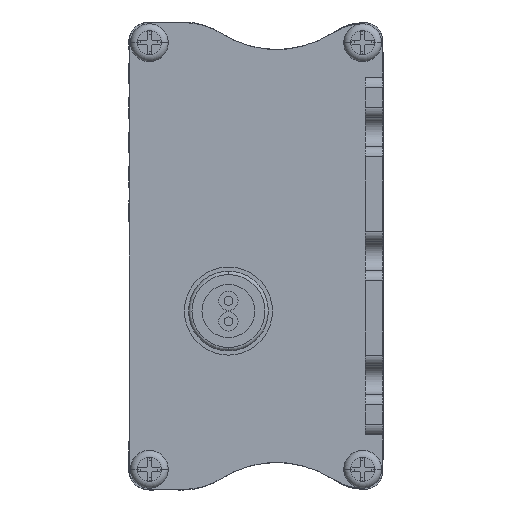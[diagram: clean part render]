
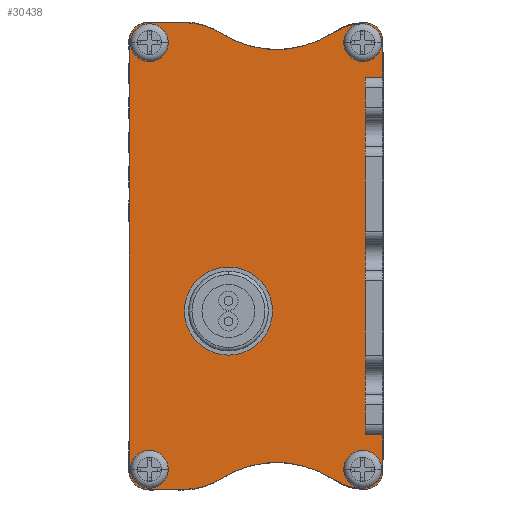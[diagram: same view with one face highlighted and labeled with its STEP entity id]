
A CAD part, left-side view. The second image highlights one B-rep face of the part: STEP entity #30438.
In plain terms, the highlighted planar face has unit normal (-1, 0, 0) as drawn and (1, 0, 0) by its records, which use the part's own axes.
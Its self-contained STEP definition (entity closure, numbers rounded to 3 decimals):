
#29561=CARTESIAN_POINT('',(2.5,22.4,8.));
#29562=DIRECTION('',(-1.,0.,0.));
#29563=DIRECTION('',(0.,1.,0.));
#29564=AXIS2_PLACEMENT_3D('',#29561,#29562,#29563);
#29566=CARTESIAN_POINT('',(2.5,22.4,8.));
#29567=DIRECTION('',(-1.,0.,0.));
#29568=DIRECTION('',(0.,-1.,0.));
#29569=AXIS2_PLACEMENT_3D('',#29566,#29567,#29568);
#29571=CARTESIAN_POINT('',(2.5,28.809,-23.9));
#29572=DIRECTION('',(1.,0.,0.));
#29573=DIRECTION('',(0.,-0.536,-0.844));
#29574=AXIS2_PLACEMENT_3D('',#29571,#29572,#29573);
#29576=CARTESIAN_POINT('',(2.5,15.4,-45.));
#29577=DIRECTION('',(1.,0.,0.));
#29578=DIRECTION('',(0.,0.536,0.844));
#29579=AXIS2_PLACEMENT_3D('',#29576,#29577,#29578);
#29581=CARTESIAN_POINT('',(2.5,1.959,-23.921));
#29582=DIRECTION('',(1.,0.,0.));
#29583=DIRECTION('',(0.,0.064,-0.998));
#29584=AXIS2_PLACEMENT_3D('',#29581,#29582,#29583);
#29586=CARTESIAN_POINT('',(2.5,2.6,-31.3));
#29587=DIRECTION('',(1.,0.,0.));
#29588=DIRECTION('',(0.,-1.,0.));
#29589=AXIS2_PLACEMENT_3D('',#29586,#29587,#29588);
#29591=DIRECTION('',(0.,0.,-1.));
#29592=VECTOR('',#29591,5.3);
#29593=CARTESIAN_POINT('',(2.5,0.,-26.));
#29594=LINE('',#29593,#29592);
#29595=DIRECTION('',(0.,1.,0.));
#29596=VECTOR('',#29595,2.5);
#29597=CARTESIAN_POINT('',(2.5,0.,26.));
#29598=LINE('',#29597,#29596);
#29599=DIRECTION('',(0.,0.,-1.));
#29600=VECTOR('',#29599,5.3);
#29601=CARTESIAN_POINT('',(2.5,0.,31.3));
#29602=LINE('',#29601,#29600);
#29603=CARTESIAN_POINT('',(2.5,2.6,31.3));
#29604=DIRECTION('',(1.,0.,0.));
#29605=DIRECTION('',(0.,0.,1.));
#29606=AXIS2_PLACEMENT_3D('',#29603,#29604,#29605);
#29608=CARTESIAN_POINT('',(2.5,1.959,23.921));
#29609=DIRECTION('',(1.,0.,0.));
#29610=DIRECTION('',(0.,0.538,0.843));
#29611=AXIS2_PLACEMENT_3D('',#29608,#29609,#29610);
#29613=CARTESIAN_POINT('',(2.5,15.4,45.));
#29614=DIRECTION('',(1.,0.,0.));
#29615=DIRECTION('',(0.,-0.538,-0.843));
#29616=AXIS2_PLACEMENT_3D('',#29613,#29614,#29615);
#29618=CARTESIAN_POINT('',(2.5,28.809,23.9));
#29619=DIRECTION('',(1.,0.,0.));
#29620=DIRECTION('',(0.,0.,1.));
#29621=AXIS2_PLACEMENT_3D('',#29618,#29619,#29620);
#29623=DIRECTION('',(0.,-1.,0.));
#29624=VECTOR('',#29623,5.391);
#29625=CARTESIAN_POINT('',(2.5,34.2,33.9));
#29626=LINE('',#29625,#29624);
#29627=CARTESIAN_POINT('',(2.5,34.2,31.3));
#29628=DIRECTION('',(1.,0.,0.));
#29629=DIRECTION('',(0.,1.,0.));
#29630=AXIS2_PLACEMENT_3D('',#29627,#29628,#29629);
#29632=DIRECTION('',(0.,0.,1.));
#29633=VECTOR('',#29632,62.6);
#29634=CARTESIAN_POINT('',(2.5,36.8,-31.3));
#29635=LINE('',#29634,#29633);
#29636=CARTESIAN_POINT('',(2.5,34.2,-31.3));
#29637=DIRECTION('',(1.,0.,0.));
#29638=DIRECTION('',(0.,0.,-1.));
#29639=AXIS2_PLACEMENT_3D('',#29636,#29637,#29638);
#29641=CARTESIAN_POINT('',(2.5,2.9,31.));
#29642=DIRECTION('',(-1.,0.,0.));
#29643=DIRECTION('',(0.,0.,-1.));
#29644=AXIS2_PLACEMENT_3D('',#29641,#29642,#29643);
#29646=CARTESIAN_POINT('',(2.5,2.9,31.));
#29647=DIRECTION('',(-1.,0.,0.));
#29648=DIRECTION('',(0.,0.,1.));
#29649=AXIS2_PLACEMENT_3D('',#29646,#29647,#29648);
#29651=CARTESIAN_POINT('',(2.5,33.9,31.));
#29652=DIRECTION('',(-1.,0.,0.));
#29653=DIRECTION('',(0.,0.,-1.));
#29654=AXIS2_PLACEMENT_3D('',#29651,#29652,#29653);
#29656=CARTESIAN_POINT('',(2.5,33.9,31.));
#29657=DIRECTION('',(-1.,0.,0.));
#29658=DIRECTION('',(0.,0.,1.));
#29659=AXIS2_PLACEMENT_3D('',#29656,#29657,#29658);
#29661=CARTESIAN_POINT('',(2.5,33.9,-31.));
#29662=DIRECTION('',(-1.,0.,0.));
#29663=DIRECTION('',(0.,0.,-1.));
#29664=AXIS2_PLACEMENT_3D('',#29661,#29662,#29663);
#29666=CARTESIAN_POINT('',(2.5,33.9,-31.));
#29667=DIRECTION('',(-1.,0.,0.));
#29668=DIRECTION('',(0.,0.,1.));
#29669=AXIS2_PLACEMENT_3D('',#29666,#29667,#29668);
#29671=CARTESIAN_POINT('',(2.5,2.9,-31.));
#29672=DIRECTION('',(-1.,0.,0.));
#29673=DIRECTION('',(0.,0.,-1.));
#29674=AXIS2_PLACEMENT_3D('',#29671,#29672,#29673);
#29676=CARTESIAN_POINT('',(2.5,2.9,-31.));
#29677=DIRECTION('',(-1.,0.,0.));
#29678=DIRECTION('',(0.,0.,1.));
#29679=AXIS2_PLACEMENT_3D('',#29676,#29677,#29678);
#29809=DIRECTION('',(0.,0.,1.));
#29810=VECTOR('',#29809,52.);
#29811=CARTESIAN_POINT('',(2.5,2.5,-26.));
#29812=LINE('',#29811,#29810);
#29919=DIRECTION('',(0.,1.,0.));
#29920=VECTOR('',#29919,2.5);
#29921=CARTESIAN_POINT('',(2.5,0.,-26.));
#29922=LINE('',#29921,#29920);
#30019=DIRECTION('',(0.,-1.,0.));
#30020=VECTOR('',#30019,5.391);
#30021=CARTESIAN_POINT('',(2.5,34.2,-33.9));
#30022=LINE('',#30021,#30020);
#30080=CARTESIAN_POINT('',(2.5,36.8,-31.3));
#30082=VERTEX_POINT('',#30080);
#30083=CARTESIAN_POINT('',(2.5,28.809,33.9));
#30085=VERTEX_POINT('',#30083);
#30088=CARTESIAN_POINT('',(2.5,34.2,33.9));
#30090=VERTEX_POINT('',#30088);
#30091=CARTESIAN_POINT('',(2.5,36.8,31.3));
#30093=VERTEX_POINT('',#30091);
#30096=CARTESIAN_POINT('',(2.5,2.6,-33.9));
#30098=VERTEX_POINT('',#30096);
#30100=CARTESIAN_POINT('',(2.5,23.445,32.34));
#30102=VERTEX_POINT('',#30100);
#30103=CARTESIAN_POINT('',(2.5,2.6,33.9));
#30105=VERTEX_POINT('',#30103);
#30107=CARTESIAN_POINT('',(2.5,7.335,32.352));
#30109=VERTEX_POINT('',#30107);
#30111=CARTESIAN_POINT('',(2.5,7.335,-32.352));
#30113=VERTEX_POINT('',#30111);
#30116=CARTESIAN_POINT('',(2.5,23.445,-32.34));
#30118=VERTEX_POINT('',#30116);
#30131=CARTESIAN_POINT('',(2.5,2.9,-32.6));
#30132=VERTEX_POINT('',#30131);
#30133=CARTESIAN_POINT('',(2.5,2.9,-29.4));
#30134=VERTEX_POINT('',#30133);
#30139=CARTESIAN_POINT('',(2.5,2.9,29.4));
#30140=VERTEX_POINT('',#30139);
#30141=CARTESIAN_POINT('',(2.5,2.9,32.6));
#30142=VERTEX_POINT('',#30141);
#30143=CARTESIAN_POINT('',(2.5,33.9,-32.6));
#30144=VERTEX_POINT('',#30143);
#30145=CARTESIAN_POINT('',(2.5,33.9,-29.4));
#30146=VERTEX_POINT('',#30145);
#30147=CARTESIAN_POINT('',(2.5,33.9,29.4));
#30148=VERTEX_POINT('',#30147);
#30149=CARTESIAN_POINT('',(2.5,33.9,32.6));
#30150=VERTEX_POINT('',#30149);
#30151=CARTESIAN_POINT('',(2.5,28.809,-33.9));
#30152=VERTEX_POINT('',#30151);
#30153=CARTESIAN_POINT('',(2.5,34.2,-33.9));
#30154=VERTEX_POINT('',#30153);
#30155=CARTESIAN_POINT('',(2.5,0.,31.3));
#30156=VERTEX_POINT('',#30155);
#30157=CARTESIAN_POINT('',(2.5,0.,26.));
#30158=VERTEX_POINT('',#30157);
#30159=CARTESIAN_POINT('',(2.5,2.5,26.));
#30160=VERTEX_POINT('',#30159);
#30161=CARTESIAN_POINT('',(2.5,2.5,-26.));
#30162=VERTEX_POINT('',#30161);
#30163=CARTESIAN_POINT('',(2.5,0.,-26.));
#30164=VERTEX_POINT('',#30163);
#30165=CARTESIAN_POINT('',(2.5,0.,-31.3));
#30166=VERTEX_POINT('',#30165);
#30175=CARTESIAN_POINT('',(2.5,28.8,8.));
#30176=CARTESIAN_POINT('',(2.5,16.,8.));
#30177=VERTEX_POINT('',#30175);
#30178=VERTEX_POINT('',#30176);
#30367=CARTESIAN_POINT('',(2.5,36.8,33.9));
#30368=DIRECTION('',(-1.,0.,0.));
#30369=DIRECTION('',(0.,-1.,0.));
#30370=AXIS2_PLACEMENT_3D('',#30367,#30368,#30369);
#30371=PLANE('',#30370);
#30373=ORIENTED_EDGE('',*,*,#30372,.F.);
#30375=ORIENTED_EDGE('',*,*,#30374,.T.);
#30377=ORIENTED_EDGE('',*,*,#30376,.F.);
#30379=ORIENTED_EDGE('',*,*,#30378,.F.);
#30381=ORIENTED_EDGE('',*,*,#30380,.F.);
#30383=ORIENTED_EDGE('',*,*,#30382,.T.);
#30385=ORIENTED_EDGE('',*,*,#30384,.T.);
#30387=ORIENTED_EDGE('',*,*,#30386,.F.);
#30389=ORIENTED_EDGE('',*,*,#30388,.F.);
#30391=ORIENTED_EDGE('',*,*,#30390,.F.);
#30393=ORIENTED_EDGE('',*,*,#30392,.F.);
#30395=ORIENTED_EDGE('',*,*,#30394,.T.);
#30396=ORIENTED_EDGE('',*,*,#30280,.F.);
#30398=ORIENTED_EDGE('',*,*,#30397,.F.);
#30400=ORIENTED_EDGE('',*,*,#30399,.F.);
#30402=ORIENTED_EDGE('',*,*,#30401,.F.);
#30404=ORIENTED_EDGE('',*,*,#30403,.F.);
#30406=ORIENTED_EDGE('',*,*,#30405,.T.);
#30407=EDGE_LOOP('',(#30373,#30375,#30377,#30379,#30381,#30383,#30385,#30387,
#30389,#30391,#30393,#30395,#30396,#30398,#30400,#30402,#30404,#30406));
#30408=FACE_OUTER_BOUND('',#30407,.F.);
#30409=ORIENTED_EDGE('',*,*,#30357,.F.);
#30411=ORIENTED_EDGE('',*,*,#30410,.F.);
#30412=EDGE_LOOP('',(#30409,#30411));
#30413=FACE_BOUND('',#30412,.F.);
#30415=ORIENTED_EDGE('',*,*,#30414,.F.);
#30417=ORIENTED_EDGE('',*,*,#30416,.F.);
#30418=EDGE_LOOP('',(#30415,#30417));
#30419=FACE_BOUND('',#30418,.F.);
#30421=ORIENTED_EDGE('',*,*,#30420,.F.);
#30423=ORIENTED_EDGE('',*,*,#30422,.F.);
#30424=EDGE_LOOP('',(#30421,#30423));
#30425=FACE_BOUND('',#30424,.F.);
#30427=ORIENTED_EDGE('',*,*,#30426,.F.);
#30429=ORIENTED_EDGE('',*,*,#30428,.F.);
#30430=EDGE_LOOP('',(#30427,#30429));
#30431=FACE_BOUND('',#30430,.F.);
#30433=ORIENTED_EDGE('',*,*,#30432,.F.);
#30435=ORIENTED_EDGE('',*,*,#30434,.F.);
#30436=EDGE_LOOP('',(#30433,#30435));
#30437=FACE_BOUND('',#30436,.F.);
#29565=CIRCLE('',#29564,6.4);
#29570=CIRCLE('',#29569,6.4);
#29575=CIRCLE('',#29574,10.);
#29580=CIRCLE('',#29579,15.);
#29585=CIRCLE('',#29584,10.);
#29590=CIRCLE('',#29589,2.6);
#29607=CIRCLE('',#29606,2.6);
#29612=CIRCLE('',#29611,10.);
#29617=CIRCLE('',#29616,15.);
#29622=CIRCLE('',#29621,10.);
#29631=CIRCLE('',#29630,2.6);
#29640=CIRCLE('',#29639,2.6);
#29645=CIRCLE('',#29644,1.6);
#29650=CIRCLE('',#29649,1.6);
#29655=CIRCLE('',#29654,1.6);
#29660=CIRCLE('',#29659,1.6);
#29665=CIRCLE('',#29664,1.6);
#29670=CIRCLE('',#29669,1.6);
#29675=CIRCLE('',#29674,1.6);
#29680=CIRCLE('',#29679,1.6);
#30280=EDGE_CURVE('',#30085,#30102,#29622,.T.);
#30357=EDGE_CURVE('',#30177,#30178,#29565,.T.);
#30372=EDGE_CURVE('',#30118,#30152,#29575,.T.);
#30374=EDGE_CURVE('',#30118,#30113,#29580,.T.);
#30376=EDGE_CURVE('',#30098,#30113,#29585,.T.);
#30378=EDGE_CURVE('',#30166,#30098,#29590,.T.);
#30380=EDGE_CURVE('',#30164,#30166,#29594,.T.);
#30382=EDGE_CURVE('',#30164,#30162,#29922,.T.);
#30384=EDGE_CURVE('',#30162,#30160,#29812,.T.);
#30386=EDGE_CURVE('',#30158,#30160,#29598,.T.);
#30388=EDGE_CURVE('',#30156,#30158,#29602,.T.);
#30390=EDGE_CURVE('',#30105,#30156,#29607,.T.);
#30392=EDGE_CURVE('',#30109,#30105,#29612,.T.);
#30394=EDGE_CURVE('',#30109,#30102,#29617,.T.);
#30397=EDGE_CURVE('',#30090,#30085,#29626,.T.);
#30399=EDGE_CURVE('',#30093,#30090,#29631,.T.);
#30401=EDGE_CURVE('',#30082,#30093,#29635,.T.);
#30403=EDGE_CURVE('',#30154,#30082,#29640,.T.);
#30405=EDGE_CURVE('',#30154,#30152,#30022,.T.);
#30410=EDGE_CURVE('',#30178,#30177,#29570,.T.);
#30414=EDGE_CURVE('',#30140,#30142,#29645,.T.);
#30416=EDGE_CURVE('',#30142,#30140,#29650,.T.);
#30420=EDGE_CURVE('',#30148,#30150,#29655,.T.);
#30422=EDGE_CURVE('',#30150,#30148,#29660,.T.);
#30426=EDGE_CURVE('',#30144,#30146,#29665,.T.);
#30428=EDGE_CURVE('',#30146,#30144,#29670,.T.);
#30432=EDGE_CURVE('',#30132,#30134,#29675,.T.);
#30434=EDGE_CURVE('',#30134,#30132,#29680,.T.);
#30438=ADVANCED_FACE('',(#30408,#30413,#30419,#30425,#30431,#30437),#30371,.F.);
